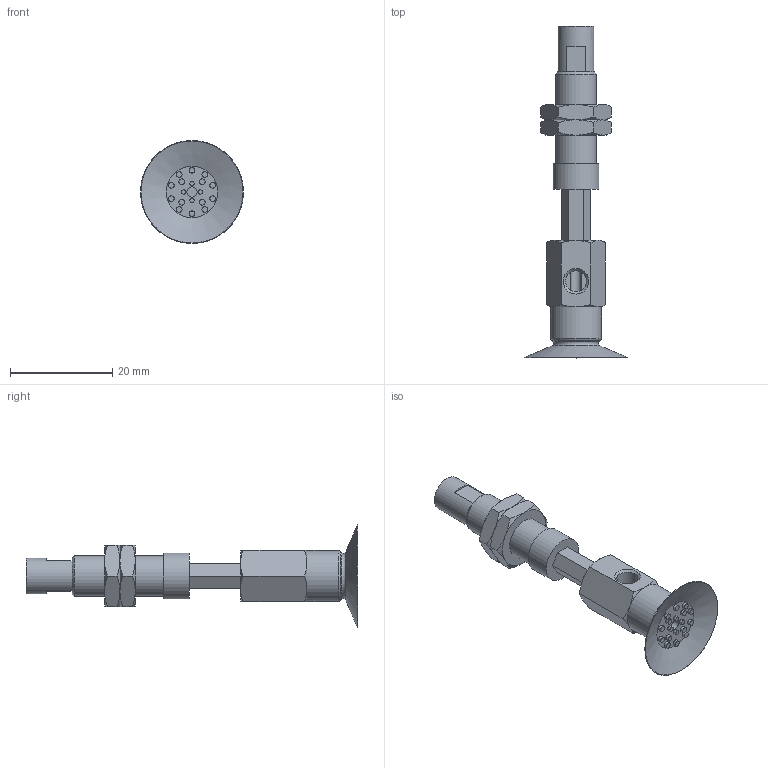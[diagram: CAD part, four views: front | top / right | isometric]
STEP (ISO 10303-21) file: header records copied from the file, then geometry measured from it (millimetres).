
FILE_DESCRIPTION(('STEP AP203'),'1');
FILE_NAME('.stp','2025-03-13T03:22:47',(' '),(' '),'Spatial InterOp 3D',' ',' ');
FILE_SCHEMA(('CONFIG_CONTROL_DESIGN'));
Length unit declared in the file: millimetre
Products named in the file (6): BNABPAYH-20A-10-※; NAPATH-20A-10--M; NAPATH-20A-10--F; Nut-10A-S; CONNECTOR-20A-10-PA; BPAG-20A-※
Assembly tree (6 placements, depth 2):
  BNABPAYH-20A-10-※
    NAPATH-20A-10--M
    NAPATH-20A-10--F
    Nut-10A-S  x2
    CONNECTOR-20A-10-PA
    BPAG-20A-※
Bounding box: 20.19 x 65 x 20.19 mm (x, y, z)
Volume: 3822.4 mm3; surface area: 4829.6 mm2
Topology: 6 solids, 6 shells, 175 faces, 355 edges, 219 vertices
Faces by surface type: plane 81, cone 51, cylinder 33, torus 10
Full cylindrical faces by diameter (mm): 0.9 x4, 1.1 x14, 2 x2, 4 x2, 4.134 x2, 5 x1, 6 x2, 7 x1, 7.188 x2, 8 x1, 9 x1, 10 x1
Entity records: 4164 total; most frequent: CARTESIAN_POINT 935, DIRECTION 624, ORIENTED_EDGE 490, AXIS2_PLACEMENT_3D 274, EDGE_CURVE 245, EDGE_LOOP 242, FACE_OUTER_BOUND 194, VERTEX_POINT 183
